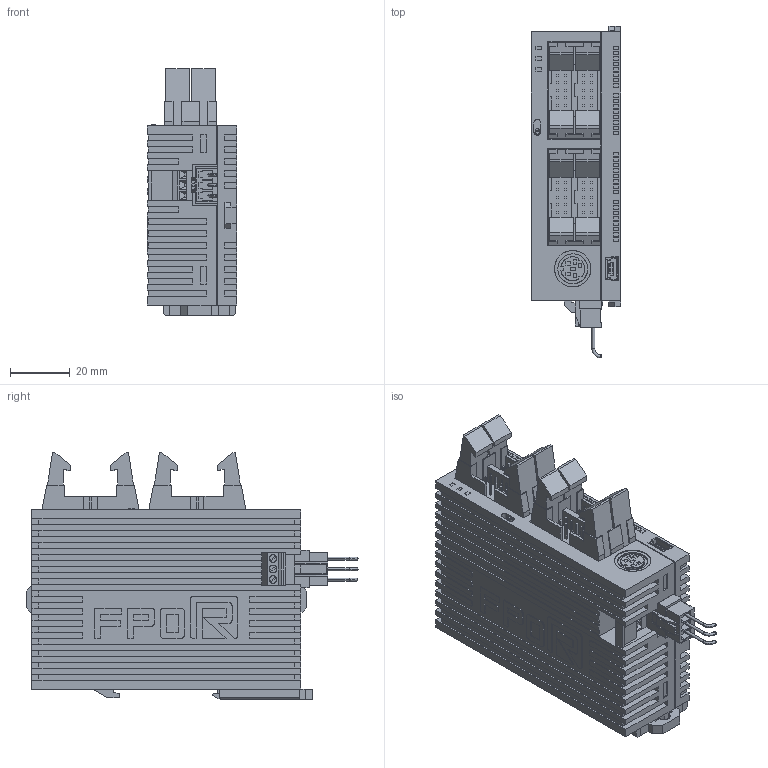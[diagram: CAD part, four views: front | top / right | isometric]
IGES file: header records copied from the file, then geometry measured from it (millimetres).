
Start section: SolidWorks IGES file using analytic representation for surfaces
Global section: file name: C:\catalog\FP0R_catalog\afp0rc32ct\afp0rc32ct.IGS; native system: SolidWorks 2010; preprocessor: SolidWorks 2010; author: ek1676; date: 130628.133428; units: millimetre
Bounding box: 30 x 111.2 x 82.7 mm (x, y, z)
Surface area: 36216.4 mm2 (no closed solid volume)
Topology: 0 solids, 0 shells, 1320 faces, 8172 edges, 8172 vertices
Faces by surface type: bspline 1254, revolution 66
